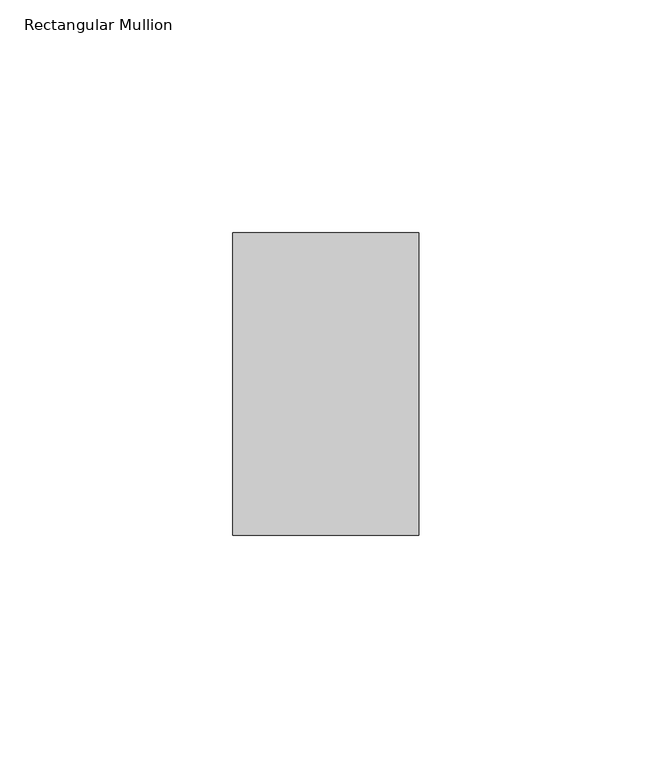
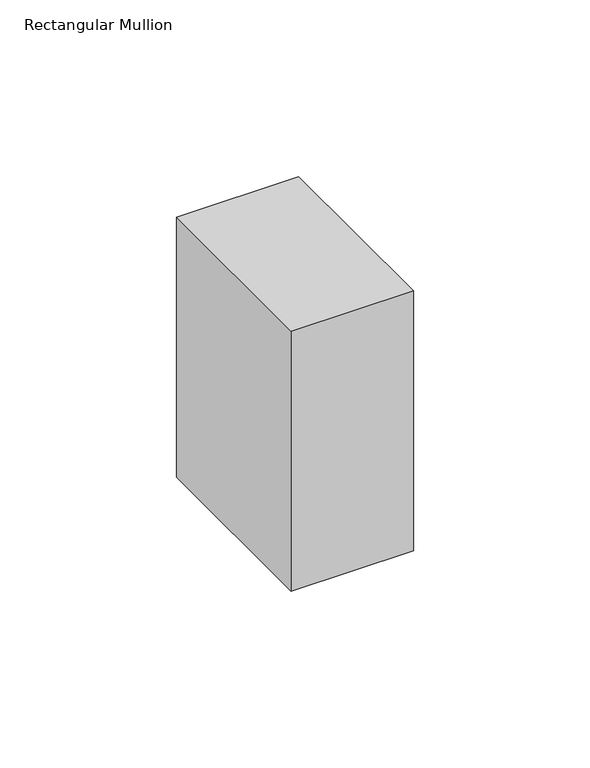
"""IFC4 building model written with IfcOpenShell, lengths in millimetres: member geometry, Rectangular Mullion : Batten_Timber_Modinex_Austratus_Grid_Fascia_40x65_AlaskanYellowCedar."""

from ifc_helpers import new_model, si_unit, frame, origin, place, context, project, spatial, polyline, outline, extrude, source, transform, mapped, element, save


def rectangular_mullion_141bfd94(model_context):
    return source(origin(), model_context, "Body", "SweptSolid", [
        extrude(outline(polyline([(0.0, 65.0), (0.0, 0.0), (-40.0, 0.0), (-40.0, 65.0), (0.0, 65.0)])), frame((0.0, 0.0, -90.0000003), z_axis=(0.0, 0.0, 1.0), x_axis=(1.0, 0.0, 0.0)), (0.0, 0.0, 1.0), 90.0000003),
    ])


if __name__ == "__main__":
    model = new_model("IFC4")
    model_context = context("Model", 3, world=origin())
    ifc_project = project(units=[si_unit("LENGTHUNIT", "METRE", prefix="MILLI")], contexts=[model_context])
    site = spatial("IfcSite", under=ifc_project)
    building = spatial("IfcBuilding", under=site)
    placement = place(None, origin())
    rectangular_mullion_shape = rectangular_mullion_141bfd94(model_context)
    element("IfcMember", 1, ObjectType="Rectangular Mullion : Batten_Timber_Modinex_Austratus_Grid_Fascia_40x65_AlaskanYellowCedar", at=placement, inside=building, context=model_context, shape_type="MappedRepresentation", body=[
        mapped(rectangular_mullion_shape, transform((0.0, 0.0, 0.0), x_axis=(1.0, 0.0, 0.0), y_axis=(0.0, 1.0, 0.0), z_axis=(0.0, 0.0, 1.0))),
    ])
    save(model, "model.ifc")
